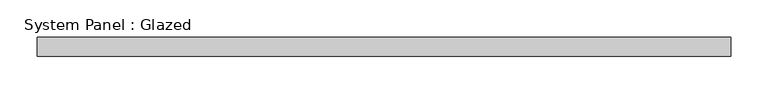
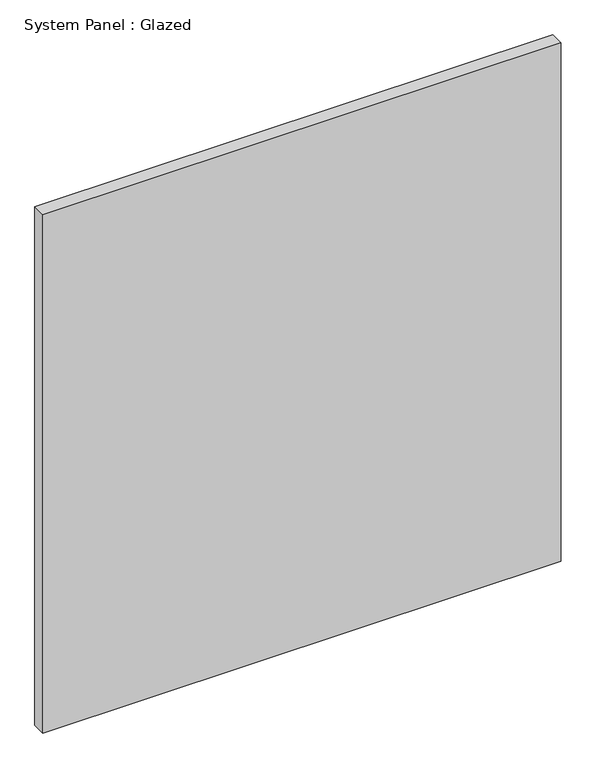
"""IFC4 building model written with IfcOpenShell, lengths in millimetres: plate geometry, System Panel : Glazed."""

from ifc_helpers import new_model, si_unit, origin, origin_with_axes, place, context, project, spatial, polyline, outline, extrude, source, transform, mapped, element, save


def system_panel_glazed_3a3d5351(model_context):
    return source(origin(), model_context, "Body", "SweptSolid", [
        extrude(outline(polyline([(462.9773698, 24.5), (-462.9773698, 24.5), (-462.9773698, 49.5), (462.9773698, 49.5), (462.9773698, 24.5)])), origin_with_axes(), (0.0, 0.0, 1.0), 978.8970931),
    ])


if __name__ == "__main__":
    model = new_model("IFC4")
    model_context = context("Model", 3, world=origin())
    ifc_project = project(units=[si_unit("LENGTHUNIT", "METRE", prefix="MILLI")], contexts=[model_context])
    site = spatial("IfcSite", under=ifc_project)
    building = spatial("IfcBuilding", under=site)
    placement = place(None, origin())
    system_panel_glazed_shape = system_panel_glazed_3a3d5351(model_context)
    element("IfcPlate", 1, ObjectType="System Panel : Glazed", at=placement, inside=building, context=model_context, shape_type="MappedRepresentation", body=[
        mapped(system_panel_glazed_shape, transform((0.0, 0.0, 0.0), x_axis=(1.0, 0.0, 0.0), y_axis=(0.0, 1.0, 0.0), z_axis=(0.0, 0.0, 1.0))),
    ])
    save(model, "model.ifc")
